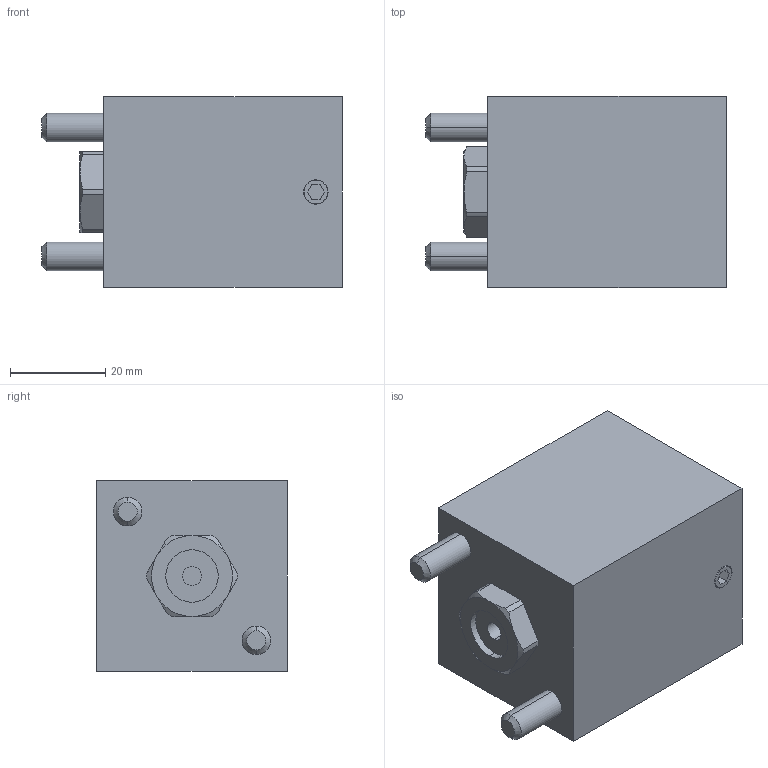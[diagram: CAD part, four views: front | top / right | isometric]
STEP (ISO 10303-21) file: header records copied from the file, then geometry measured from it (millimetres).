
FILE_DESCRIPTION (( 'STEP AP203' ), '1' );
FILE_NAME ('JKB0x0-0G.step', '2010-03-15T09:08:56', ( ' ' ), ( ' ' ), 'SwSTEP 2.0', 'SolidWorks 2009', '' );
FILE_SCHEMA (( 'CONFIG_CONTROL_DESIGN' ));
Length unit declared in the file: millimetre
Products named in the file (4): JKB0x0-0G; JKB0x0-0G.sldasm-Part-1; JKB0x0-0G.sldasm-Part-2; JKB0x0-0G.sldasm-Part-3
Assembly tree (3 placements, depth 2):
  JKB0x0-0G
    JKB0x0-0G.sldasm-Part-1
    JKB0x0-0G.sldasm-Part-3
    JKB0x0-0G.sldasm-Part-2
Bounding box: 63 x 40 x 40 mm (x, y, z)
Volume: 80522.8 mm3; surface area: 13968.9 mm2
Topology: 3 solids, 5 shells, 115 faces, 262 edges, 170 vertices
Faces by surface type: plane 57, cylinder 36, cone 22
Entity records: 3708 total; most frequent: CARTESIAN_POINT 617, DIRECTION 594, ORIENTED_EDGE 524, EDGE_CURVE 262, AXIS2_PLACEMENT_3D 223, VERTEX_POINT 170, VECTOR 148, LINE 148
